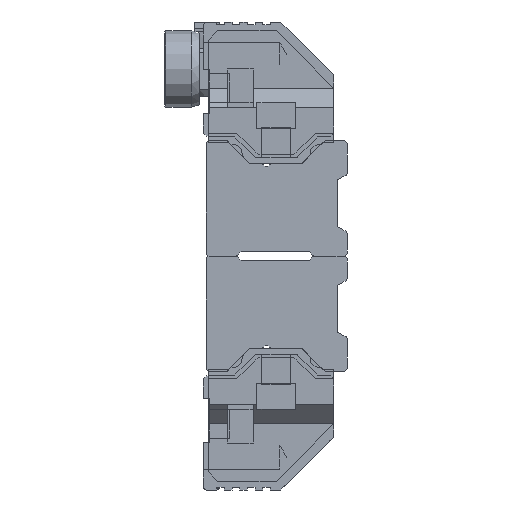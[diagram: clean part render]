
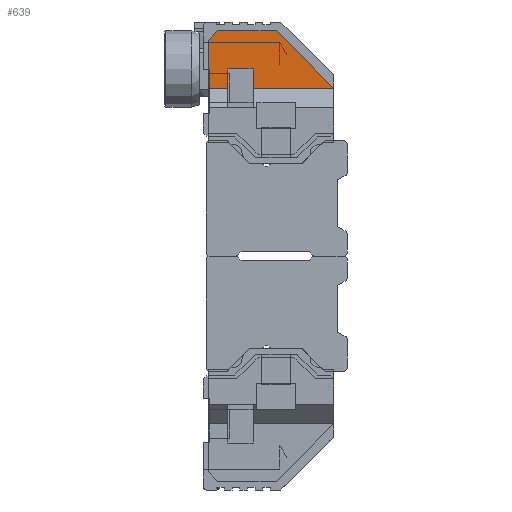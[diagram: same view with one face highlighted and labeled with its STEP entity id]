
A CAD part, left-side view. The second image highlights one B-rep face of the part: STEP entity #639.
In plain terms, the highlighted planar face has unit normal (-1, 0, 0).
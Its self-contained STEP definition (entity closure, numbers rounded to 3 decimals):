
#639 = ADVANCED_FACE( '', ( #2590 ), #2591, .T. );
#2590 = FACE_OUTER_BOUND( '', #5718, .T. );
#2591 = PLANE( '', #5719 );
#5718 = EDGE_LOOP( '', ( #10046, #10047, #10048, #10049, #10050, #10051, #10052, #10053, #10054 ) );
#5719 = AXIS2_PLACEMENT_3D( '', #10055, #10056, #10057 );
#10046 = ORIENTED_EDGE( '', *, *, #15497, .F. );
#10047 = ORIENTED_EDGE( '', *, *, #15509, .T. );
#10048 = ORIENTED_EDGE( '', *, *, #15503, .T. );
#10049 = ORIENTED_EDGE( '', *, *, #15515, .T. );
#10050 = ORIENTED_EDGE( '', *, *, #15519, .F. );
#10051 = ORIENTED_EDGE( '', *, *, #15520, .F. );
#10052 = ORIENTED_EDGE( '', *, *, #15521, .F. );
#10053 = ORIENTED_EDGE( '', *, *, #15522, .F. );
#10054 = ORIENTED_EDGE( '', *, *, #15516, .T. );
#10055 = CARTESIAN_POINT( '', ( -35., 11.55, 29. ) );
#10056 = DIRECTION( '', ( -1., 0., 0. ) );
#10057 = DIRECTION( '', ( 0., 0., 1. ) );
#15497 = EDGE_CURVE( '', #18172, #18174, #18175, .T. );
#15503 = EDGE_CURVE( '', #18185, #18183, #18186, .T. );
#15509 = EDGE_CURVE( '', #18172, #18185, #18193, .T. );
#15515 = EDGE_CURVE( '', #18183, #18203, #18205, .T. );
#15516 = EDGE_CURVE( '', #18206, #18174, #18207, .T. );
#15519 = EDGE_CURVE( '', #18211, #18203, #18212, .T. );
#15520 = EDGE_CURVE( '', #18213, #18211, #18214, .T. );
#15521 = EDGE_CURVE( '', #18215, #18213, #18216, .T. );
#15522 = EDGE_CURVE( '', #18206, #18215, #18217, .T. );
#18172 = VERTEX_POINT( '', #22105 );
#18174 = VERTEX_POINT( '', #22108 );
#18175 = LINE( '', #22109, #22110 );
#18183 = VERTEX_POINT( '', #22122 );
#18185 = VERTEX_POINT( '', #22125 );
#18186 = LINE( '', #22126, #22127 );
#18193 = LINE( '', #22139, #22140 );
#18203 = VERTEX_POINT( '', #22154 );
#18205 = LINE( '', #22157, #22158 );
#18206 = VERTEX_POINT( '', #22159 );
#18207 = LINE( '', #22160, #22161 );
#18211 = VERTEX_POINT( '', #22167 );
#18212 = LINE( '', #22168, #22169 );
#18213 = VERTEX_POINT( '', #22170 );
#18214 = LINE( '', #22171, #22172 );
#18215 = VERTEX_POINT( '', #22173 );
#18216 = LINE( '', #22174, #22175 );
#18217 = LINE( '', #22176, #22177 );
#22105 = CARTESIAN_POINT( '', ( -35., 5.15, 13.5 ) );
#22108 = CARTESIAN_POINT( '', ( -35., 5.15, 11.5 ) );
#22109 = CARTESIAN_POINT( '', ( -35., 5.15, 29. ) );
#22110 = VECTOR( '', #27012, 1000. );
#22122 = CARTESIAN_POINT( '', ( -35., 2.45, 11.5 ) );
#22125 = CARTESIAN_POINT( '', ( -35., 2.45, 13.5 ) );
#22126 = CARTESIAN_POINT( '', ( -35., 2.45, 29. ) );
#22127 = VECTOR( '', #27018, 1000. );
#22139 = CARTESIAN_POINT( '', ( -35., 11.55, 13.5 ) );
#22140 = VECTOR( '', #27024, 1000. );
#22154 = CARTESIAN_POINT( '', ( -35., -5.95, 11.5 ) );
#22157 = CARTESIAN_POINT( '', ( -35., 11.55, 11.5 ) );
#22158 = VECTOR( '', #27030, 1000. );
#22159 = CARTESIAN_POINT( '', ( -35., 7.15, 11.5 ) );
#22160 = CARTESIAN_POINT( '', ( -35., 11.55, 11.5 ) );
#22161 = VECTOR( '', #27031, 1000. );
#22167 = CARTESIAN_POINT( '', ( -35., 0.05, 17.5 ) );
#22168 = CARTESIAN_POINT( '', ( -35., 0.05, 17.5 ) );
#22169 = VECTOR( '', #27034, 1000. );
#22170 = CARTESIAN_POINT( '', ( -35., 6.15, 17.5 ) );
#22171 = CARTESIAN_POINT( '', ( -35., 6.15, 17.5 ) );
#22172 = VECTOR( '', #27035, 1000. );
#22173 = CARTESIAN_POINT( '', ( -35., 7.15, 16.5 ) );
#22174 = CARTESIAN_POINT( '', ( -35., 7.15, 16.5 ) );
#22175 = VECTOR( '', #27036, 1000. );
#22176 = CARTESIAN_POINT( '', ( -35., 7.15, 6.8 ) );
#22177 = VECTOR( '', #27037, 1000. );
#27012 = DIRECTION( '', ( 0., 0., -1. ) );
#27018 = DIRECTION( '', ( 0., 0., -1. ) );
#27024 = DIRECTION( '', ( 0., -1., 0. ) );
#27030 = DIRECTION( '', ( 0., -1., 0. ) );
#27031 = DIRECTION( '', ( 0., -1., 0. ) );
#27034 = DIRECTION( '', ( 0., -0.707, -0.707 ) );
#27035 = DIRECTION( '', ( 0., -1., 0. ) );
#27036 = DIRECTION( '', ( 0., -0.707, 0.707 ) );
#27037 = DIRECTION( '', ( 0., 0., 1. ) );
